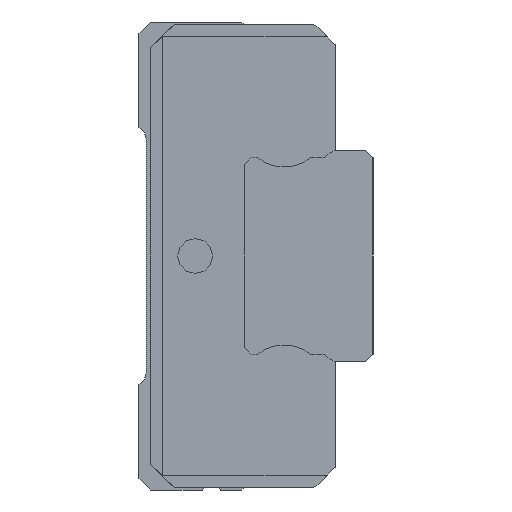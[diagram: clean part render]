
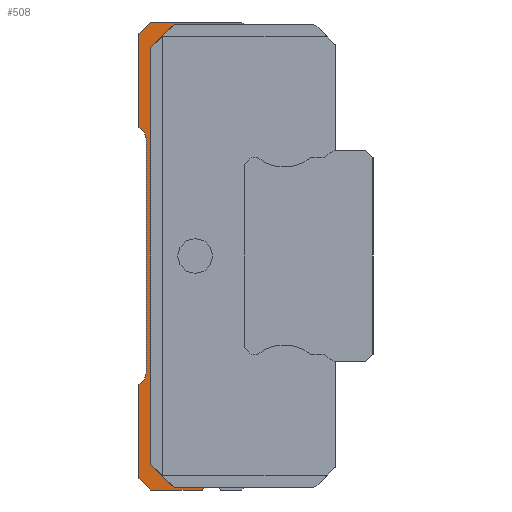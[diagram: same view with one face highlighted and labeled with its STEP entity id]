
A CAD part, left-side view. The second image highlights one B-rep face of the part: STEP entity #508.
In plain terms, the highlighted planar face has unit normal (-1, 0, 0).
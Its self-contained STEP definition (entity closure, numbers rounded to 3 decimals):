
#508 = ADVANCED_FACE( '', ( #1436 ), #1437, .F. );
#1436 = FACE_OUTER_BOUND( '', #2364, .T. );
#1437 = PLANE( '', #2365 );
#2364 = EDGE_LOOP( '', ( #5403, #5404, #5405, #5406, #5407, #5408, #5409, #5410, #5411, #5412, #5413, #5414, #5415, #5416, #5417, #5418, #5419, #5420 ) );
#2365 = AXIS2_PLACEMENT_3D( '', #5421, #5422, #5423 );
#5403 = ORIENTED_EDGE( '', *, *, #6223, .T. );
#5404 = ORIENTED_EDGE( '', *, *, #6373, .F. );
#5405 = ORIENTED_EDGE( '', *, *, #6371, .F. );
#5406 = ORIENTED_EDGE( '', *, *, #6369, .F. );
#5407 = ORIENTED_EDGE( '', *, *, #6367, .F. );
#5408 = ORIENTED_EDGE( '', *, *, #6365, .F. );
#5409 = ORIENTED_EDGE( '', *, *, #6363, .F. );
#5410 = ORIENTED_EDGE( '', *, *, #6361, .F. );
#5411 = ORIENTED_EDGE( '', *, *, #6359, .F. );
#5412 = ORIENTED_EDGE( '', *, *, #6357, .F. );
#5413 = ORIENTED_EDGE( '', *, *, #6355, .F. );
#5414 = ORIENTED_EDGE( '', *, *, #6353, .F. );
#5415 = ORIENTED_EDGE( '', *, *, #6351, .F. );
#5416 = ORIENTED_EDGE( '', *, *, #6349, .F. );
#5417 = ORIENTED_EDGE( '', *, *, #6254, .T. );
#5418 = ORIENTED_EDGE( '', *, *, #6287, .T. );
#5419 = ORIENTED_EDGE( '', *, *, #6284, .T. );
#5420 = ORIENTED_EDGE( '', *, *, #6213, .T. );
#5421 = CARTESIAN_POINT( '', ( 475.1, 1.5, 0. ) );
#5422 = DIRECTION( '', ( 1., 0., 0. ) );
#5423 = DIRECTION( '', ( 0., 0., -1. ) );
#6213 = EDGE_CURVE( '', #7712, #7710, #7713, .T. );
#6223 = EDGE_CURVE( '', #7710, #7727, #7729, .T. );
#6254 = EDGE_CURVE( '', #7780, #7778, #7781, .T. );
#6284 = EDGE_CURVE( '', #7827, #7712, #7828, .T. );
#6287 = EDGE_CURVE( '', #7778, #7827, #7831, .T. );
#6349 = EDGE_CURVE( '', #7780, #7911, #7912, .T. );
#6351 = EDGE_CURVE( '', #7911, #7914, #7915, .T. );
#6353 = EDGE_CURVE( '', #7914, #7917, #7918, .T. );
#6355 = EDGE_CURVE( '', #7917, #7920, #7921, .T. );
#6357 = EDGE_CURVE( '', #7920, #7923, #7924, .T. );
#6359 = EDGE_CURVE( '', #7923, #7926, #7927, .T. );
#6361 = EDGE_CURVE( '', #7926, #7929, #7930, .T. );
#6363 = EDGE_CURVE( '', #7929, #7932, #7933, .T. );
#6365 = EDGE_CURVE( '', #7932, #7935, #7936, .T. );
#6367 = EDGE_CURVE( '', #7935, #7938, #7939, .T. );
#6369 = EDGE_CURVE( '', #7938, #7941, #7942, .T. );
#6371 = EDGE_CURVE( '', #7941, #7944, #7945, .T. );
#6373 = EDGE_CURVE( '', #7944, #7727, #7947, .T. );
#7710 = VERTEX_POINT( '', #9610 );
#7712 = VERTEX_POINT( '', #9613 );
#7713 = LINE( '', #9614, #9615 );
#7727 = VERTEX_POINT( '', #9637 );
#7729 = LINE( '', #9640, #9641 );
#7778 = VERTEX_POINT( '', #9714 );
#7780 = VERTEX_POINT( '', #9717 );
#7781 = LINE( '', #9718, #9719 );
#7827 = VERTEX_POINT( '', #9793 );
#7828 = LINE( '', #9794, #9795 );
#7831 = LINE( '', #9800, #9801 );
#7911 = VERTEX_POINT( '', #9923 );
#7912 = CIRCLE( '', #9924, 0.5 );
#7914 = VERTEX_POINT( '', #9927 );
#7915 = LINE( '', #9928, #9929 );
#7917 = VERTEX_POINT( '', #9932 );
#7918 = LINE( '', #9933, #9934 );
#7920 = VERTEX_POINT( '', #9937 );
#7921 = LINE( '', #9938, #9939 );
#7923 = VERTEX_POINT( '', #9942 );
#7924 = LINE( '', #9943, #9944 );
#7926 = VERTEX_POINT( '', #9947 );
#7927 = CIRCLE( '', #9948, 0.5 );
#7929 = VERTEX_POINT( '', #9951 );
#7930 = LINE( '', #9952, #9953 );
#7932 = VERTEX_POINT( '', #9956 );
#7933 = CIRCLE( '', #9957, 0.5 );
#7935 = VERTEX_POINT( '', #9960 );
#7936 = LINE( '', #9961, #9962 );
#7938 = VERTEX_POINT( '', #9965 );
#7939 = LINE( '', #9966, #9967 );
#7941 = VERTEX_POINT( '', #9970 );
#7942 = LINE( '', #9971, #9972 );
#7944 = VERTEX_POINT( '', #9975 );
#7945 = LINE( '', #9976, #9977 );
#7947 = LINE( '', #9980, #9981 );
#9610 = CARTESIAN_POINT( '', ( 475.1, 8.5, 9.9 ) );
#9613 = CARTESIAN_POINT( '', ( 475.1, 9.5, 8.9 ) );
#9614 = CARTESIAN_POINT( '', ( 475.1, 9.725, 8.675 ) );
#9615 = VECTOR( '', #11695, 1. );
#9637 = CARTESIAN_POINT( '', ( 475.1, 5.5, 9.9 ) );
#9640 = CARTESIAN_POINT( '', ( 475.1, 5., 9.9 ) );
#9641 = VECTOR( '', #11705, 1. );
#9714 = CARTESIAN_POINT( '', ( 475.1, 8.5, -9.9 ) );
#9717 = CARTESIAN_POINT( '', ( 475.1, 7.2, -9.9 ) );
#9718 = CARTESIAN_POINT( '', ( 475.1, 2.1, -9.9 ) );
#9719 = VECTOR( '', #11746, 1. );
#9793 = CARTESIAN_POINT( '', ( 475.1, 9.5, -8.9 ) );
#9794 = CARTESIAN_POINT( '', ( 475.1, 9.5, -4.45 ) );
#9795 = VECTOR( '', #11778, 1. );
#9800 = CARTESIAN_POINT( '', ( 475.1, 9.225, -9.175 ) );
#9801 = VECTOR( '', #11781, 1. );
#9923 = CARTESIAN_POINT( '', ( 475.1, 7.3, -10. ) );
#9924 = AXIS2_PLACEMENT_3D( '', #11881, #11882, #11883 );
#9927 = CARTESIAN_POINT( '', ( 475.1, 9.5, -10. ) );
#9928 = CARTESIAN_POINT( '', ( 475.1, 7.3, -10. ) );
#9929 = VECTOR( '', #11885, 1. );
#9932 = CARTESIAN_POINT( '', ( 475.1, 10., -9.5 ) );
#9933 = CARTESIAN_POINT( '', ( 475.1, 9.5, -10. ) );
#9934 = VECTOR( '', #11887, 1. );
#9937 = CARTESIAN_POINT( '', ( 475.1, 10., -5.5 ) );
#9938 = CARTESIAN_POINT( '', ( 475.1, 10., -9.5 ) );
#9939 = VECTOR( '', #11889, 1. );
#9942 = CARTESIAN_POINT( '', ( 475.1, 9.855, -5.362 ) );
#9943 = CARTESIAN_POINT( '', ( 475.1, 10., -5.5 ) );
#9944 = VECTOR( '', #11891, 1. );
#9947 = CARTESIAN_POINT( '', ( 475.1, 9.7, -5. ) );
#9948 = AXIS2_PLACEMENT_3D( '', #11893, #11894, #11895 );
#9951 = CARTESIAN_POINT( '', ( 475.1, 9.7, 5. ) );
#9952 = CARTESIAN_POINT( '', ( 475.1, 9.7, -5. ) );
#9953 = VECTOR( '', #11897, 1. );
#9956 = CARTESIAN_POINT( '', ( 475.1, 9.855, 5.362 ) );
#9957 = AXIS2_PLACEMENT_3D( '', #11899, #11900, #11901 );
#9960 = CARTESIAN_POINT( '', ( 475.1, 10., 5.5 ) );
#9961 = CARTESIAN_POINT( '', ( 475.1, 9.855, 5.362 ) );
#9962 = VECTOR( '', #11903, 1. );
#9965 = CARTESIAN_POINT( '', ( 475.1, 10., 9.5 ) );
#9966 = CARTESIAN_POINT( '', ( 475.1, 10., 5.5 ) );
#9967 = VECTOR( '', #11905, 1. );
#9970 = CARTESIAN_POINT( '', ( 475.1, 9.5, 10. ) );
#9971 = CARTESIAN_POINT( '', ( 475.1, 10., 9.5 ) );
#9972 = VECTOR( '', #11907, 1. );
#9975 = CARTESIAN_POINT( '', ( 475.1, 5.6, 10. ) );
#9976 = CARTESIAN_POINT( '', ( 475.1, 9.5, 10. ) );
#9977 = VECTOR( '', #11909, 1. );
#9980 = CARTESIAN_POINT( '', ( 475.1, 5.6, 10. ) );
#9981 = VECTOR( '', #11911, 1. );
#11695 = DIRECTION( '', ( 0., -0.707, 0.707 ) );
#11705 = DIRECTION( '', ( 0., -1., 0. ) );
#11746 = DIRECTION( '', ( 0., 1., 0. ) );
#11778 = DIRECTION( '', ( 0., 0., 1. ) );
#11781 = DIRECTION( '', ( 0., 0.707, 0.707 ) );
#11881 = CARTESIAN_POINT( '', ( 475.1, 6.9, -10.3 ) );
#11882 = DIRECTION( '', ( -1., 0., 0. ) );
#11883 = DIRECTION( '', ( 0., -0.8, 0.6 ) );
#11885 = DIRECTION( '', ( 0., 1., 0. ) );
#11887 = DIRECTION( '', ( 0., 0.707, 0.707 ) );
#11889 = DIRECTION( '', ( 0., 0., 1. ) );
#11891 = DIRECTION( '', ( 0., -0.724, 0.69 ) );
#11893 = CARTESIAN_POINT( '', ( 475.1, 10.2, -5. ) );
#11894 = DIRECTION( '', ( -1., 0., 0. ) );
#11895 = DIRECTION( '', ( 0., -0.69, -0.724 ) );
#11897 = DIRECTION( '', ( 0., 0., 1. ) );
#11899 = CARTESIAN_POINT( '', ( 475.1, 10.2, 5. ) );
#11900 = DIRECTION( '', ( -1., 0., 0. ) );
#11901 = DIRECTION( '', ( 0., -1., 0. ) );
#11903 = DIRECTION( '', ( 0., 0.724, 0.69 ) );
#11905 = DIRECTION( '', ( 0., 0., 1. ) );
#11907 = DIRECTION( '', ( 0., -0.707, 0.707 ) );
#11909 = DIRECTION( '', ( 0., -1., 0. ) );
#11911 = DIRECTION( '', ( 0., -0.707, -0.707 ) );
